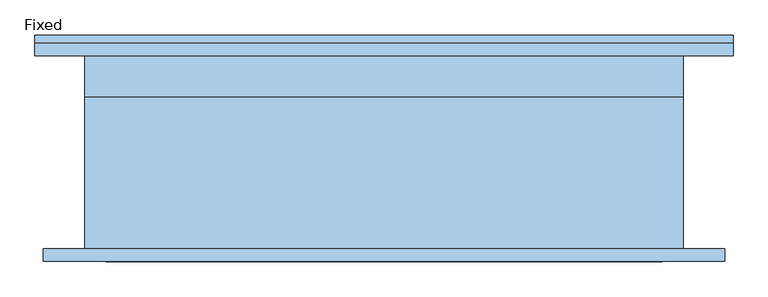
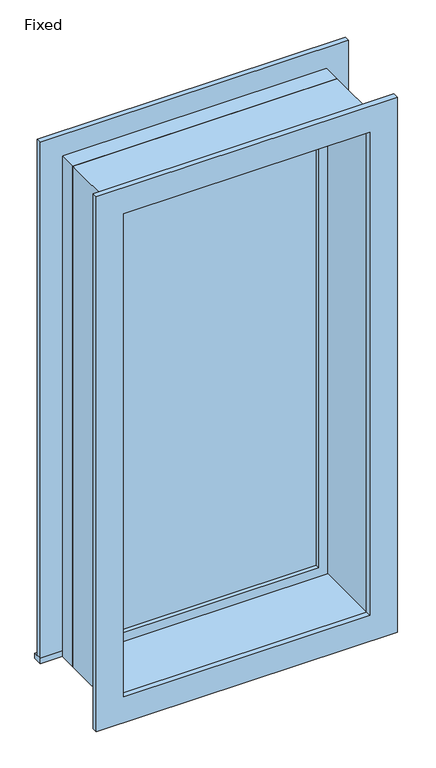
"""IFC4 building model written with IfcOpenShell, lengths in millimetres: window geometry."""

from ifc_helpers import new_model, si_unit, frame, origin, place, context, project, spatial, polyline, outline, extrude, source, transform, mapped, element, save


def fixed_6768491c(model_context):
    return source(origin(), model_context, "Body", "SweptSolid", [
        extrude(outline(polyline([(-571.5, 179.3875), (495.3, 179.3875), (495.3, 147.6375), (-571.5, 147.6375), (-571.5, 179.3875)])), frame((0.0, 0.0, 304.8), z_axis=(0.0, 0.0, 1.0), x_axis=(1.0, 0.0, 0.0)), (0.0, 0.0, 1.0), 19.05),
        extrude(outline(polyline([(2114.55, -476.25), (2114.55, 400.05), (323.85, 400.05), (323.85, 495.3), (2209.8, 495.3), (2209.8, -571.5), (323.85, -571.5), (323.85, -476.25), (2114.55, -476.25)])), frame((0.0, 147.6375, 0.0), z_axis=(0.0, 1.0, 0.0), x_axis=(0.0, 0.0, 1.0)), (0.0, 0.0, 1.0), 19.05),
        extrude(outline(polyline([(2197.1, 482.6), (2197.1, -558.8), (241.3, -558.8), (241.3, 482.6), (2197.1, 482.6)]), holes=[polyline([(2101.85, 387.35), (336.55, 387.35), (336.55, -463.55), (2101.85, -463.55), (2101.85, 387.35)])]), frame((0.0, -166.6875, 0.0), z_axis=(0.0, 1.0, 0.0), x_axis=(0.0, 0.0, 1.0)), (0.0, 0.0, 1.0), 19.05),
        extrude(outline(polyline([(355.6, 100.0125), (-431.8, 100.0125), (-431.8, 112.7125), (355.6, 112.7125), (355.6, 100.0125)])), frame((0.0, 0.0, 368.3), z_axis=(0.0, 0.0, 1.0), x_axis=(1.0, 0.0, 0.0)), (0.0, 0.0, 1.0), 1701.8),
        extrude(outline(polyline([(2114.55, -476.25), (323.85, -476.25), (323.85, 400.05), (2114.55, 400.05), (2114.55, -476.25)]), holes=[polyline([(2070.1, -431.8), (2070.1, 355.6), (368.3, 355.6), (368.3, -431.8), (2070.1, -431.8)])]), frame((0.0, 84.1375, 0.0), z_axis=(0.0, 1.0, 0.0), x_axis=(0.0, 0.0, 1.0)), (0.0, 0.0, 1.0), 44.45),
        extrude(outline(polyline([(2133.6, -495.3), (304.8, -495.3), (304.8, 419.1), (2133.6, 419.1), (2133.6, -495.3)]), holes=[polyline([(2101.85, -463.55), (2101.85, 387.35), (336.55, 387.35), (336.55, -463.55), (2101.85, -463.55)])]), frame((0.0, -147.6375, 0.0), z_axis=(0.0, 1.0, 0.0), x_axis=(0.0, 0.0, 1.0)), (0.0, 0.0, 1.0), 231.775),
        extrude(outline(polyline([(2133.6, 419.1), (2133.6, -495.3), (304.8, -495.3), (304.8, 419.1), (2133.6, 419.1)]), holes=[polyline([(2114.55, 400.05), (323.85, 400.05), (323.85, -476.25), (2114.55, -476.25), (2114.55, 400.05)])]), frame((0.0, 84.1375, 0.0), z_axis=(0.0, 1.0, 0.0), x_axis=(0.0, 0.0, 1.0)), (0.0, 0.0, 1.0), 63.5),
    ])


if __name__ == "__main__":
    model = new_model("IFC4")
    model_context = context("Model", 3, world=origin())
    ifc_project = project(units=[si_unit("LENGTHUNIT", "METRE", prefix="MILLI")], contexts=[model_context])
    site = spatial("IfcSite", under=ifc_project)
    building = spatial("IfcBuilding", under=site)
    placement = place(None, origin())
    fixed_shape = fixed_6768491c(model_context)
    element("IfcWindow", 1, ObjectType="Fixed : 36\"w x 72\"h", at=placement, inside=building, context=model_context, shape_type="MappedRepresentation", body=[
        mapped(fixed_shape, transform((0.0, 0.0, 0.0), x_axis=(1.0, 0.0, 0.0), y_axis=(0.0, 1.0, 0.0), z_axis=(0.0, 0.0, 1.0))),
    ])
    save(model, "model.ifc")
